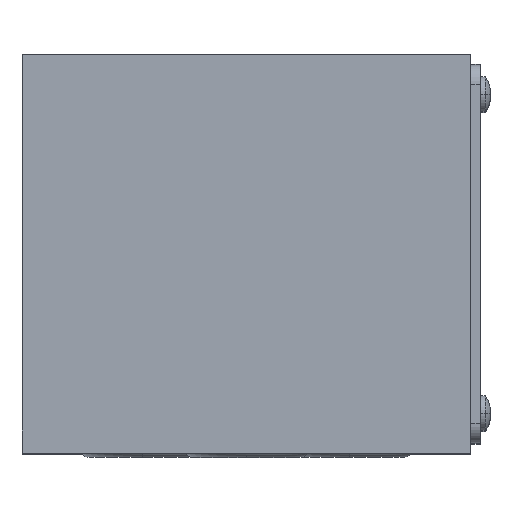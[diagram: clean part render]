
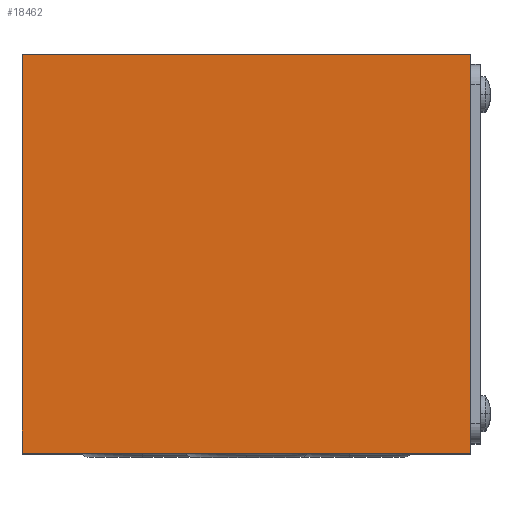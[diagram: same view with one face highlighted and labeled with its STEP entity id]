
A CAD part, top view. The second image highlights one B-rep face of the part: STEP entity #18462.
In plain terms, the highlighted planar face has unit normal (0, 0, 1) as drawn and (0, 0, -1) by its records, which use the part's own axes.
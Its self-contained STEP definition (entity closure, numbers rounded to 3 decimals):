
#403 = LINE ( 'NONE', #19710, #76312 ) ;
#9541 = VERTEX_POINT ( 'NONE', #43713 ) ;
#10090 = CARTESIAN_POINT ( 'NONE',  ( -22.5, -20., -32. ) ) ;
#14021 = LINE ( 'NONE', #67245, #50893 ) ;
#15129 = EDGE_CURVE ( 'NONE', #44891, #28576, #403, .T. ) ;
#15446 = ORIENTED_EDGE ( 'NONE', *, *, #84498, .F. ) ;
#15853 = VECTOR ( 'NONE', #79961, 1000. ) ;
#18462 = ADVANCED_FACE ( 'NONE', ( #73687 ), #68974, .F. ) ;
#19612 = EDGE_CURVE ( 'NONE', #28576, #9541, #94122, .T. ) ;
#19710 = CARTESIAN_POINT ( 'NONE',  ( -22.5, 20., -32. ) ) ;
#21372 = CARTESIAN_POINT ( 'NONE',  ( -22.5, 20., -32. ) ) ;
#24013 = ORIENTED_EDGE ( 'NONE', *, *, #94166, .F. ) ;
#24881 = DIRECTION ( 'NONE',  ( 0., 0., 1. ) ) ;
#26933 = AXIS2_PLACEMENT_3D ( 'NONE', #10090, #24881, #76342 ) ;
#28193 = CARTESIAN_POINT ( 'NONE',  ( 22.5, -20., -32. ) ) ;
#28576 = VERTEX_POINT ( 'NONE', #21372 ) ;
#43713 = CARTESIAN_POINT ( 'NONE',  ( -22.5, -20., -32. ) ) ;
#44891 = VERTEX_POINT ( 'NONE', #68669 ) ;
#47896 = ORIENTED_EDGE ( 'NONE', *, *, #15129, .F. ) ;
#49902 = EDGE_LOOP ( 'NONE', ( #53675, #47896, #24013, #15446 ) ) ;
#50312 = VECTOR ( 'NONE', #76102, 1000. ) ;
#50893 = VECTOR ( 'NONE', #74591, 1000. ) ;
#53675 = ORIENTED_EDGE ( 'NONE', *, *, #19612, .F. ) ;
#57788 = CARTESIAN_POINT ( 'NONE',  ( -22.5, 20., -32. ) ) ;
#67245 = CARTESIAN_POINT ( 'NONE',  ( 22.5, 20., -32. ) ) ;
#68669 = CARTESIAN_POINT ( 'NONE',  ( 22.5, 20., -32. ) ) ;
#68719 = CARTESIAN_POINT ( 'NONE',  ( -22.5, -20., -32. ) ) ;
#68974 = PLANE ( 'NONE',  #26933 ) ;
#72116 = LINE ( 'NONE', #68719, #50312 ) ;
#73687 = FACE_OUTER_BOUND ( 'NONE', #49902, .T. ) ;
#74591 = DIRECTION ( 'NONE',  ( 0., 1., 0. ) ) ;
#76102 = DIRECTION ( 'NONE',  ( 1., 0., 0. ) ) ;
#76312 = VECTOR ( 'NONE', #93358, 1000. ) ;
#76342 = DIRECTION ( 'NONE',  ( 1., 0., 0. ) ) ;
#79961 = DIRECTION ( 'NONE',  ( 0., -1., 0. ) ) ;
#84498 = EDGE_CURVE ( 'NONE', #9541, #94971, #72116, .T. ) ;
#93358 = DIRECTION ( 'NONE',  ( -1., 0., 0. ) ) ;
#94122 = LINE ( 'NONE', #57788, #15853 ) ;
#94166 = EDGE_CURVE ( 'NONE', #94971, #44891, #14021, .T. ) ;
#94971 = VERTEX_POINT ( 'NONE', #28193 ) ;
